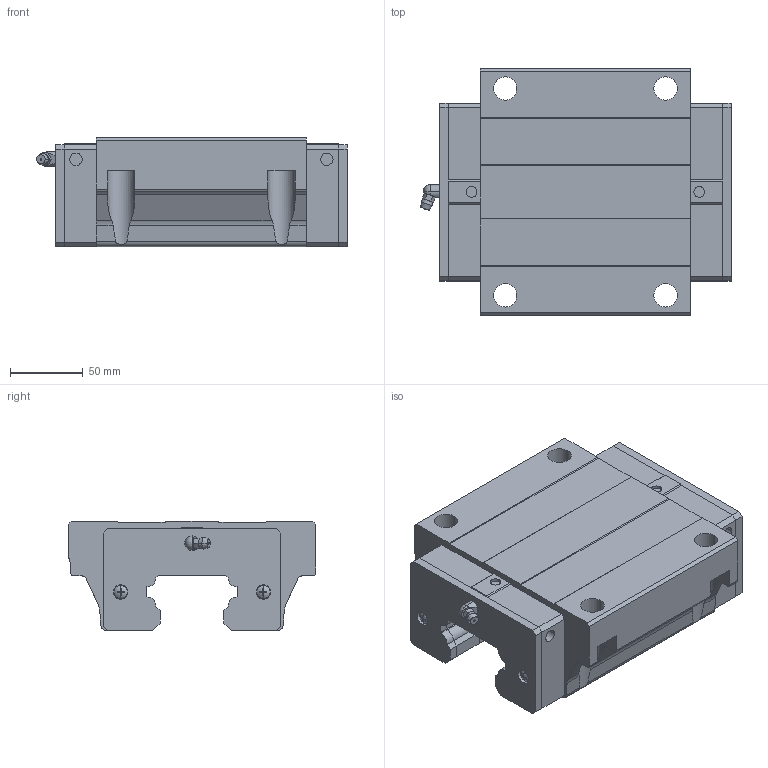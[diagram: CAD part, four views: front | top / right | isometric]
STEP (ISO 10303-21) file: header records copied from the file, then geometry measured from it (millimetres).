
FILE_DESCRIPTION(('starvars output'),'2;1');
FILE_NAME('cv20190626222442000041321.stp','22:24:42 2019/06/26',( 'Thomas Industrial Network Germany GmbH'),( 'Thomas Industrial Network Germany GmbH'),'unknown preprocess','ACIS' ,'unknown authorization');
FILE_SCHEMA(('CONFIG_CONTROL_DESIGN {UNKNOWN IMPLEMENTATION LEVEL}'));
Length unit declared in the file: millimetre
Products named in the file (10): PRODUCT_ID_1; PRODUCT_ID_2; PRODUCT_ID_3; PRODUCT_ID_4; PRODUCT_ID_5; PRODUCT_ID_6; PRODUCT_ID_7; PRODUCT_ID_8; PRODUCT_ID_9; PRODUCT_ID_10
Bounding box: 213.1 x 170 x 75 mm (x, y, z)
Volume: 1663366 mm3; surface area: 188001 mm2
Topology: 10 solids, 10 shells, 406 faces, 1067 edges, 691 vertices
Faces by surface type: plane 267, cylinder 81, cone 46, sphere 12
Entity records: 12098 total; most frequent: ORIENTED_EDGE 2126, CARTESIAN_POINT 2099, DIRECTION 1627, EDGE_CURVE 1063, VERTEX_POINT 691, VECTOR 661, LINE 661, AXIS2_PLACEMENT_3D 483
